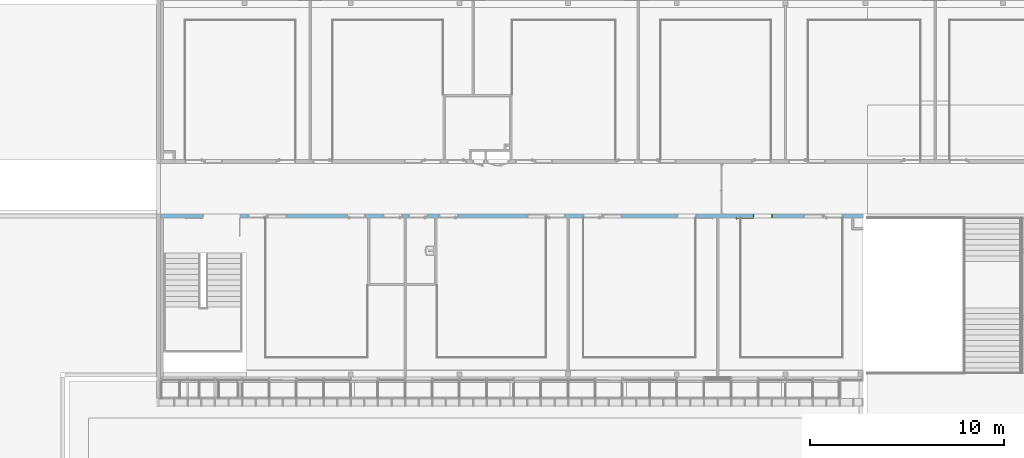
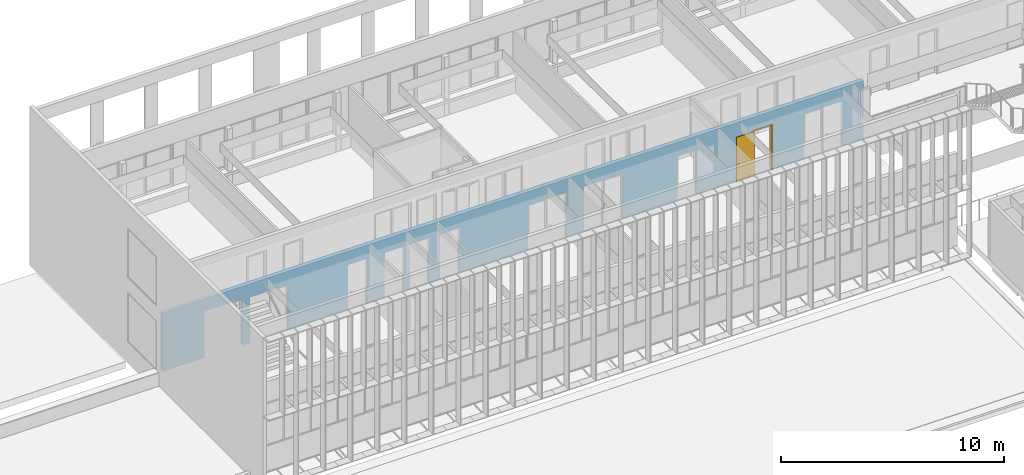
# One storey, part 94 of 106: 1 door, 15 openings, plus 1 element that does not belong to this part.
"""IFC2X3 building model written with IfcOpenShell, lengths in centimetres."""

from ifc_helpers import new_model, entity, si_unit, converted_unit, derived_unit, direction, frame, frame_2d, origin, place, context, subcontext, project, spatial, polyline, rectangle, extrude, clip, bounded_halfspace, faceted_brep, source, transform, mapped, material, material_list, layer, layer_set, layer_usage, type_object, type_shapes, element, fill, save


model = new_model("IFC2X3")

# Units and contexts
model_context = context("Model", 3, precision=0.001, world=origin(), true_north=direction((6.12303176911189e-17, 1.0)))
body_context = subcontext(model_context, "Body", "Model", "MODEL_VIEW")
ifc_project = project(units=[si_unit("LENGTHUNIT", "METRE", prefix="CENTI"), si_unit("AREAUNIT", "SQUARE_METRE"), si_unit("VOLUMEUNIT", "CUBIC_METRE"), converted_unit("PLANEANGLEUNIT", "DEGREE", entity("IfcRatioMeasure", 0.0174532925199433), si_unit("PLANEANGLEUNIT", "RADIAN"), dimensions=[0, 0, 0, 0, 0, 0, 0]), si_unit("MASSUNIT", "GRAM", prefix="KILO"), derived_unit("MASSDENSITYUNIT", [(si_unit("MASSUNIT", "GRAM", prefix="KILO"), 1), (si_unit("LENGTHUNIT", "METRE"), -3)]), si_unit("TIMEUNIT", "SECOND"), si_unit("FREQUENCYUNIT", "HERTZ"), si_unit("THERMODYNAMICTEMPERATUREUNIT", "DEGREE_CELSIUS"), derived_unit("THERMALTRANSMITTANCEUNIT", [(si_unit("MASSUNIT", "GRAM", prefix="KILO"), 1), (si_unit("THERMODYNAMICTEMPERATUREUNIT", "KELVIN"), -1), (si_unit("TIMEUNIT", "SECOND"), -3)]), derived_unit("VOLUMETRICFLOWRATEUNIT", [(si_unit("LENGTHUNIT", "METRE"), 3), (si_unit("TIMEUNIT", "SECOND"), -1)]), si_unit("ELECTRICCURRENTUNIT", "AMPERE"), si_unit("ELECTRICVOLTAGEUNIT", "VOLT"), si_unit("POWERUNIT", "WATT"), si_unit("FORCEUNIT", "NEWTON", prefix="KILO"), si_unit("ILLUMINANCEUNIT", "LUX"), si_unit("LUMINOUSFLUXUNIT", "LUMEN"), si_unit("LUMINOUSINTENSITYUNIT", "CANDELA"), derived_unit("USERDEFINED", [(si_unit("MASSUNIT", "GRAM", prefix="KILO"), -1), (si_unit("LENGTHUNIT", "METRE"), -2), (si_unit("TIMEUNIT", "SECOND"), 3), (si_unit("LUMINOUSFLUXUNIT", "LUMEN"), 1)]), derived_unit("LINEARVELOCITYUNIT", [(si_unit("LENGTHUNIT", "METRE"), 1), (si_unit("TIMEUNIT", "SECOND"), -1)]), si_unit("PRESSUREUNIT", "PASCAL"), derived_unit("USERDEFINED", [(si_unit("LENGTHUNIT", "METRE"), -2), (si_unit("MASSUNIT", "GRAM", prefix="KILO"), 1), (si_unit("TIMEUNIT", "SECOND"), -2)])], contexts=[model_context])

# Site, building, storey
site_placement = place(None, frame((-2781.94577612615, 7442.24238424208, 0.0)))
site = spatial("IfcSite", under=ifc_project, at=site_placement, Name="Default", CompositionType="ELEMENT")
building_placement = place(site_placement, origin())
building = spatial("IfcBuilding", under=site, at=building_placement, CompositionType="ELEMENT")
storey_placement = place(building_placement, frame((0.0, 0.0, 422.0)))
storey = spatial("IfcBuildingStorey", under=building, at=storey_placement, Name="Toiture - Cuisine", CompositionType="ELEMENT", Elevation=421.999999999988)

# Wall, openings, door
ifc_material_1 = material(Name="01 - Maçonnerie")
ifc_layer = layer(ifc_material_1, 20.0)
ifc_layer_set = layer_set([ifc_layer], Name="Mur de base:04 - Structure - béton - 20cm")
ifc_layer_usage = layer_usage(ifc_layer_set, "AXIS2", "NEGATIVE", 10.0)
wall_type = type_object("IfcWallType", Name="Mur de base:04 - Structure - béton - 20cm", PredefinedType="STANDARD", material=ifc_layer_set)
wall_placement = place(building_placement, frame((-4787.99987760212, -1100.0, 422.0), z_axis=(0.0, 0.0, 1.0), x_axis=(-1.0, 0.0, 0.0)))
wall = element("IfcWallStandardCase", 1, at=wall_placement, inside=storey, type_object=wall_type, material=ifc_layer_usage, Name="Mur de base:04 - Structure - béton - 20cm", ObjectType="Mur de base:04 - Structure - béton - 20cm", context=body_context, shape_type="Clipping", body=[
    clip(extrude(rectangle(XDim=3621.50000006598, YDim=20.0000000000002, at=frame_2d((1810.75000003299, 5.32907051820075e-14), x_axis=(-1.0, 0.0))), origin(), (0.0, 0.0, 1.0), 321.0), bounded_halfspace(frame((4.0, -10.0, 321.0), z_axis=(0.0, 0.0, -1.0), x_axis=(0.0, -1.0, 0.0)), True, frame((4.0, -10.0, 321.0)), polyline([(0.0, 0.0), (720.0, 0.0), (730.0, 0.0), (3617.50000006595, 0.0), (3617.50000006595, 20.0), (3602.20000006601, 20.0), (3077.50016406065, 20.0), (3075.50016406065, 20.0), (2550.5, 20.0), (2540.5, 20.0), (2362.50000003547, 20.0), (2352.50000003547, 20.0), (2203.5, 20.0), (2193.5, 20.0), (1632.5, 20.0), (1630.5, 20.0), (1522.50016406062, 20.0), (1512.50016406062, 20.0), (1440.5, 20.0), (1438.5, 20.0), (862.500000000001, 20.0), (860.5, 20.0), (750.500000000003, 20.0), (740.500000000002, 20.0), (630.500000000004, 20.0), (628.500000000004, 20.0), (104.500000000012, 20.0), (102.500000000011, 20.0), (56.0, 20.0), (46.0, 20.0), (0.0, 20.0), (0.0, 0.0)]))),
])
opening_1_placement = place(wall_placement, frame((3071.50016406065, -10.0, 0.0)))
element("IfcOpeningElement", 2, at=opening_1_placement, cuts=wall, Name="Int. Simple:PV (0.93m x 2.50m):1", ObjectType="Opening", context=body_context, shape_type="SweptSolid", body=[
    extrude(rectangle(XDim=248.500000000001, YDim=99.9999999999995, at=frame_2d((124.250000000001, 49.9999999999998), x_axis=(1.0, 0.0))), frame((0.0, 0.0, 0.0), z_axis=(0.0, 1.0, 0.0), x_axis=(0.0, 0.0, 1.0)), (0.0, 0.0, 1.0), 20.0),
])
opening_2_placement = place(wall_placement, frame((1534.5, -10.0, 0.0)))
element("IfcOpeningElement", 3, at=opening_2_placement, cuts=wall, Name="Int. Simple:PV (0.93m x 2.50m):1", ObjectType="Opening", context=body_context, shape_type="SweptSolid", body=[
    extrude(rectangle(XDim=248.500000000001, YDim=99.9999999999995, at=frame_2d((124.250000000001, 50.0), x_axis=(1.0, 0.0))), frame((0.0, 0.0, 0.0), z_axis=(0.0, 1.0, 0.0), x_axis=(0.0, 0.0, 1.0)), (0.0, 0.0, 1.0), 20.0),
])
opening_3_placement = place(wall_placement, frame((861.500000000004, -10.0, 0.0)))
element("IfcOpeningElement", 4, at=opening_3_placement, cuts=wall, Name="Int. Simple:PV (0.93m x 2.50m):1", ObjectType="Opening", context=body_context, shape_type="SweptSolid", body=[
    extrude(rectangle(XDim=248.500000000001, YDim=99.9999999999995, at=frame_2d((124.250000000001, 50.0), x_axis=(1.0, 0.0))), frame((0.0, 0.0, 0.0), z_axis=(0.0, 1.0, 0.0), x_axis=(0.0, 0.0, 1.0)), (0.0, 0.0, 1.0), 20.0),
])
opening_4_placement = place(wall_placement, frame((469.500000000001, -10.0, 0.0)))
opening_4 = element("IfcOpeningElement", 5, at=opening_4_placement, cuts=wall, Name="Int. Simple:PV (0.93m x 2.50m):1", ObjectType="Opening", context=body_context, shape_type="SweptSolid", body=[
    extrude(rectangle(XDim=248.500000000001, YDim=99.9999999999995, at=frame_2d((124.250000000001, 49.9999999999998), x_axis=(1.0, 0.0))), frame((0.0, 0.0, 0.0), z_axis=(0.0, 1.0, 0.0), x_axis=(0.0, 0.0, 1.0)), (0.0, 0.0, 1.0), 20.0),
])
opening_5_placement = place(wall_placement, frame((2971.50016406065, -10.0, 0.0)))
element("IfcOpeningElement", 6, at=opening_5_placement, cuts=wall, Name="châssis intérieur vitré:châssis intérieur vitré (h=270) R+1:1", ObjectType="Opening", context=body_context, shape_type="SweptSolid", body=[
    extrude(rectangle(XDim=250.0, YDim=99.9999999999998, at=frame_2d((125.0, 49.9999999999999), x_axis=(1.0, 0.0))), frame((0.0, 0.0, 0.0), z_axis=(0.0, 1.0, 0.0), x_axis=(0.0, 0.0, 1.0)), (0.0, 0.0, 1.0), 20.0),
])
opening_6_placement = place(wall_placement, frame((1634.50000000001, -10.0, 0.0)))
element("IfcOpeningElement", 7, at=opening_6_placement, cuts=wall, Name="châssis intérieur vitré:châssis intérieur vitré (h=270) R+1:1", ObjectType="Opening", context=body_context, shape_type="SweptSolid", body=[
    extrude(rectangle(XDim=250.0, YDim=99.9999999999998, at=frame_2d((125.0, 49.9999999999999), x_axis=(1.0, 0.0))), frame((0.0, 0.0, 0.0), z_axis=(0.0, 1.0, 0.0), x_axis=(0.0, 0.0, 1.0)), (0.0, 0.0, 1.0), 20.0),
])
opening_7_placement = place(wall_placement, frame((1243.0, -10.0, 0.0)))
element("IfcOpeningElement", 8, at=opening_7_placement, cuts=wall, Name="châssis intérieur vitré:châssis intérieur vitré (h=270) R+1:1", ObjectType="Opening", context=body_context, shape_type="SweptSolid", body=[
    extrude(rectangle(XDim=250.0, YDim=99.9999999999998, at=frame_2d((125.0, 49.9999999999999), x_axis=(1.0, 0.0))), frame((0.0, 0.0, 0.0), z_axis=(0.0, 1.0, 0.0), x_axis=(0.0, 0.0, 1.0)), (0.0, 0.0, 1.0), 20.0),
])
opening_8_placement = place(wall_placement, frame((208.0, -10.0, 0.0)))
element("IfcOpeningElement", 9, at=opening_8_placement, cuts=wall, Name="châssis intérieur vitré:châssis intérieur vitré (h=270) R+1:1", ObjectType="Opening", context=body_context, shape_type="SweptSolid", body=[
    extrude(rectangle(XDim=250.0, YDim=99.9999999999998, at=frame_2d((125.0, 49.9999999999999), x_axis=(1.0, 0.0))), frame((0.0, 0.0, 0.0), z_axis=(0.0, 1.0, 0.0), x_axis=(0.0, 0.0, 1.0)), (0.0, 0.0, 1.0), 20.0),
])
opening_9_placement = place(wall_placement, frame((2564.5, -10.0, 0.0)))
element("IfcOpeningElement", 10, at=opening_9_placement, cuts=wall, Name="Int. Simple:PV (0.93m x 2.50m):1", ObjectType="Opening", context=body_context, shape_type="SweptSolid", body=[
    extrude(rectangle(XDim=248.500000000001, YDim=99.9999999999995, at=frame_2d((124.250000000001, 50.0), x_axis=(1.0, 0.0))), frame((0.0, 0.0, 0.0), z_axis=(0.0, 1.0, 0.0), x_axis=(0.0, 0.0, 1.0)), (0.0, 0.0, 1.0), 20.0),
])
opening_10_placement = place(wall_placement, frame((2374.5, -10.0, 0.0)))
element("IfcOpeningElement", 11, at=opening_10_placement, cuts=wall, Name="Int. Simple:PP simple (0.93m x 2.50m):1", ObjectType="Opening", context=body_context, shape_type="SweptSolid", body=[
    extrude(rectangle(XDim=248.500000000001, YDim=99.9999999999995, at=frame_2d((124.250000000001, 49.9999999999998), x_axis=(1.0, 0.0))), frame((0.0, 0.0, 0.0), z_axis=(0.0, 1.0, 0.0), x_axis=(0.0, 0.0, 1.0)), (0.0, 0.0, 1.0), 20.0),
])
opening_11_placement = place(wall_placement, frame((2244.5, -10.0, 0.0)))
element("IfcOpeningElement", 12, at=opening_11_placement, cuts=wall, Name="Int. Simple:PP simple (0.93m x 2.50m):1", ObjectType="Opening", context=body_context, shape_type="SweptSolid", body=[
    extrude(rectangle(XDim=248.500000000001, YDim=99.9999999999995, at=frame_2d((124.250000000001, 49.9999999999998), x_axis=(1.0, 0.0))), frame((0.0, 0.0, 0.0), z_axis=(0.0, 1.0, 0.0), x_axis=(0.0, 0.0, 1.0)), (0.0, 0.0, 1.0), 20.0),
])
opening_12_placement = place(wall_placement, frame((2087.5, -10.0, 0.0)))
element("IfcOpeningElement", 13, at=opening_12_placement, cuts=wall, Name="Int. Simple:PV (0.93m x 2.50m):1", ObjectType="Opening", context=body_context, shape_type="SweptSolid", body=[
    extrude(rectangle(XDim=248.500000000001, YDim=99.9999999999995, at=frame_2d((124.250000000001, 49.9999999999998), x_axis=(1.0, 0.0))), frame((0.0, 0.0, 0.0), z_axis=(0.0, 1.0, 0.0), x_axis=(0.0, 0.0, 1.0)), (0.0, 0.0, 1.0), 20.0),
])
opening_13_placement = place(wall_placement, frame((1344.5, -10.0, 0.0)))
element("IfcOpeningElement", 14, at=opening_13_placement, cuts=wall, Name="Int. Simple:PV (0.93m x 2.50m):1", ObjectType="Opening", context=body_context, shape_type="SweptSolid", body=[
    extrude(rectangle(XDim=248.500000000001, YDim=99.9999999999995, at=frame_2d((124.250000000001, 49.9999999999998), x_axis=(1.0, 0.0))), frame((0.0, 0.0, 0.0), z_axis=(0.0, 1.0, 0.0), x_axis=(0.0, 0.0, 1.0)), (0.0, 0.0, 1.0), 20.0),
])
opening_14_placement = place(wall_placement, frame((106.500000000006, -10.0, 0.0)))
element("IfcOpeningElement", 15, at=opening_14_placement, cuts=wall, Name="Int. Simple:PV (0.93m x 2.50m):1", ObjectType="Opening", context=body_context, shape_type="SweptSolid", body=[
    extrude(rectangle(XDim=248.500000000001, YDim=99.9999999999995, at=frame_2d((124.250000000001, 50.0), x_axis=(1.0, 0.0))), frame((0.0, 0.0, 0.0), z_axis=(0.0, 1.0, 0.0), x_axis=(0.0, 0.0, 1.0)), (0.0, 0.0, 1.0), 20.0),
])
opening_15_placement = place(wall_placement, frame((3208.50000000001, -10.0, 0.0)))
element("IfcOpeningElement", 16, at=opening_15_placement, cuts=wall, Name="Int. Double:PP (1.90m x 2.50m):1", ObjectType="Opening", context=body_context, shape_type="SweptSolid", body=[
    extrude(rectangle(XDim=253.500000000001, YDim=197.0, at=frame_2d((126.750000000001, 98.5), x_axis=(1.0, 0.0))), frame((0.0, 0.0, 0.0), z_axis=(0.0, 1.0, 0.0), x_axis=(0.0, 0.0, 1.0)), (0.0, 0.0, 1.0), 20.0),
])
ifc_material_2 = material(Name="Finition Peinture - Blanc satiné")
ifc_material_3 = material(Name="Bois - Panneau de porte")
ifc_material_4 = material(Name="Bois - Cadre de porte")
ifc_material_list_1 = material_list([ifc_material_2, ifc_material_3, ifc_material_4])
ifc_material_list_2 = material_list([ifc_material_2, ifc_material_3, ifc_material_4])
door_style = type_object("IfcDoorStyle", Name="PV (0.93m x 2.50m)", ConstructionType="NOTDEFINED", OperationType="SINGLE_SWING_RIGHT", ParameterTakesPrecedence=False, Sizeable=False, material=ifc_material_list_2)
shared_shape = source(origin(), body_context, "Body", "Brep", [
    faceted_brep([(-78.4999999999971, 0.499999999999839, 87.0), (-78.4999999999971, 0.499999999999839, 108.0), (-77.5352761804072, 0.499999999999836, 108.399601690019), (-76.4999999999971, 0.49999999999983, 108.535898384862), (-75.4647238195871, 0.499999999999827, 108.399601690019), (-74.4999999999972, 0.499999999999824, 108.0), (-74.499999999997, 0.499999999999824, 87.0), (-75.4647238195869, 0.499999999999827, 86.6003983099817), (-76.499999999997, 0.49999999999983, 86.464101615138), (-77.5352761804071, 0.499999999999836, 86.6003983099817), (-78.4999999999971, 0.0, 108.0), (-78.499999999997, 0.0, 87.0), (-77.5352761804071, 0.0, 86.6003983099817), (-76.499999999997, 0.0, 86.464101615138), (-75.464723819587, 0.0, 86.6003983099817), (-74.4999999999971, 0.0, 87.0), (-74.4999999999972, 0.0, 108.0), (-75.4647238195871, 0.0, 108.399601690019), (-76.4999999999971, 0.0, 108.535898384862), (-77.5352761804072, 0.0, 108.399601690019)], [[[0, 1, 2, 3, 4, 5, 6, 7, 8, 9]], [[10, 11, 12, 13, 14, 15, 16, 17, 18, 19]], [[9, 12, 11, 0]], [[8, 13, 12, 9]], [[7, 14, 13, 8]], [[7, 6, 15, 14]], [[15, 6, 5, 16]], [[4, 17, 16, 5]], [[3, 18, 17, 4]], [[2, 19, 18, 3]], [[2, 1, 10, 19]], [[11, 10, 1, 0]]]),
    faceted_brep([(-78.4999999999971, -4.0, 87.0), (-78.4999999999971, -4.0, 108.0), (-77.5352761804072, -4.0, 108.399601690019), (-76.4999999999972, -4.0, 108.535898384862), (-75.4647238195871, -4.0, 108.399601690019), (-74.4999999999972, -4.0, 108.0), (-74.4999999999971, -4.0, 87.0), (-75.464723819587, -4.0, 86.6003983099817), (-76.499999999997, -4.0, 86.464101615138), (-77.5352761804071, -4.0, 86.6003983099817), (-76.4999999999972, -4.50000000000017, 108.535898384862), (-77.5352761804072, -4.50000000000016, 108.399601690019), (-78.4999999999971, -4.50000000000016, 108.0), (-78.499999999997, -4.50000000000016, 87.0), (-77.5352761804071, -4.50000000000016, 86.6003983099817), (-76.499999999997, -4.50000000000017, 86.464101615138), (-75.464723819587, -4.50000000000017, 86.6003983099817), (-74.4999999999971, -4.50000000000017, 87.0), (-74.4999999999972, -4.50000000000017, 108.0), (-75.4647238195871, -4.50000000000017, 108.399601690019)], [[[0, 1, 2, 3, 4, 5, 6, 7, 8, 9]], [[10, 11, 12, 13, 14, 15, 16, 17, 18, 19]], [[4, 19, 18, 5]], [[3, 10, 19, 4]], [[2, 11, 10, 3]], [[2, 1, 12, 11]], [[13, 12, 1, 0]], [[9, 14, 13, 0]], [[8, 15, 14, 9]], [[7, 16, 15, 8]], [[7, 6, 17, 16]], [[17, 6, 5, 18]]]),
    faceted_brep([(-76.2974701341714, 0.499999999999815, 100.778044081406), (-76.7025298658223, 0.499999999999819, 100.778044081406), (-77.0999999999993, 0.499999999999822, 100.699999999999), (-77.1000000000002, 0.499999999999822, 99.2999999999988), (-76.7025298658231, 0.499999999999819, 99.221955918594), (-76.2974701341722, 0.499999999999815, 99.2219559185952), (-75.8999999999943, 0.499999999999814, 99.3000000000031), (-75.8999999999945, 0.499999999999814, 100.7), (-76.7025298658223, 3.10045754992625, 100.778044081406), (-77.0999999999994, 3.26509507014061, 100.7), (-76.2974701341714, 2.93267631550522, 100.778044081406), (-74.929860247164, 4.30028620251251, 100.778044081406), (-75.097641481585, 4.70534593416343, 100.778044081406), (-75.8999999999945, 2.76803879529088, 100.7), (-75.8999999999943, 2.76803879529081, 99.3000000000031), (-76.2974701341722, 2.93267631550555, 99.2219559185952), (-76.7025298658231, 3.10045754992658, 99.221955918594), (-75.0976414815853, 4.70534593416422, 99.221955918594), (-74.9298602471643, 4.3002862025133, 99.2219559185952), (-77.1000000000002, 3.26509507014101, 99.2999999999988), (-75.2622790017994, 5.10281606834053, 100.7), (-74.7652227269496, 3.9028160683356, 100.7), (-74.7652227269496, 3.90281606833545, 99.3000000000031), (-75.2622790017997, 5.10281606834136, 99.2999999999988), (-66.4981359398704, 5.10281606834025, 100.7), (-66.4981359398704, 4.70534593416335, 100.778044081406), (-66.4981359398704, 4.30028620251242, 100.778044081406), (-66.4981359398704, 3.90281606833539, 100.699999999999), (-66.4981359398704, 3.90281606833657, 99.3000000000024), (-66.4981359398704, 4.30028620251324, 99.2219559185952), (-66.4981359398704, 4.70534593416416, 99.221955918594), (-66.4981359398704, 5.10281606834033, 99.2999999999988), (-70.7139980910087, 4.50281606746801, 100.78786867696), (-71.2692302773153, 5.10281606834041, 100.7), (-70.63167933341, 3.90281606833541, 100.7), (-70.6316793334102, 3.9028160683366, 99.3000000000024), (-70.7139981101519, 4.50281607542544, 99.2121313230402), (-71.2692310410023, 5.10281606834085, 99.2999999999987)], [[[0, 1, 2, 3, 4, 5, 6, 7]], [[2, 1, 8, 9]], [[1, 0, 10, 11, 12, 8]], [[0, 7, 13, 10]], [[14, 13, 7, 6]], [[5, 15, 14, 6]], [[5, 4, 16, 17, 18, 15]], [[3, 19, 16, 4]], [[9, 19, 3, 2]], [[9, 8, 12, 20]], [[10, 13, 21, 11]], [[22, 21, 13, 14]], [[14, 15, 18, 22]], [[16, 19, 23, 17]], [[20, 23, 19, 9]], [[24, 25, 26, 27, 28, 29, 30, 31]], [[32, 25, 33]], [[33, 25, 24]], [[33, 20, 12]], [[11, 34, 32]], [[34, 11, 21]], [[27, 26, 34]], [[32, 26, 25]], [[32, 34, 26]], [[32, 33, 12]], [[11, 32, 12]], [[21, 22, 35, 28, 27, 34]], [[36, 29, 35]], [[30, 36, 37]], [[18, 35, 22]], [[29, 28, 35]], [[30, 37, 31]], [[37, 17, 23]], [[36, 17, 37]], [[36, 18, 17]], [[36, 35, 18]], [[29, 36, 30]], [[23, 20, 33, 24, 31, 37]]]),
    faceted_brep([(-76.2974701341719, -4.50000000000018, 99.2219559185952), (-76.7025298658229, -4.50000000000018, 99.221955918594), (-77.099999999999, -4.50000000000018, 99.2999999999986), (-77.0999999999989, -4.50000000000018, 100.7), (-76.702529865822, -4.50000000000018, 100.778044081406), (-76.2974701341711, -4.50000000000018, 100.778044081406), (-75.8999999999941, -4.50000000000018, 100.7), (-75.8999999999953, -4.50000000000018, 99.3000000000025), (-75.8999999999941, -6.74852045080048, 100.7), (-75.8999999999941, -6.74852045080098, 99.3000000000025), (-76.2974701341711, -6.91315797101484, 100.778044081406), (-76.702529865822, -7.08093920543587, 100.778044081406), (-75.0838906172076, -8.69957845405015, 100.778044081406), (-74.9161093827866, -8.29451872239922, 100.778044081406), (-77.0999999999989, -7.2455767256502, 100.7), (-77.099999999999, -7.24557672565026, 99.2999999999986), (-76.7025298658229, -7.08093920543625, 99.221955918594), (-76.297470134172, -6.91315797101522, 99.2219559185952), (-74.916109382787, -8.29451872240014, 99.2219559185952), (-75.083890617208, -8.69957845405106, 99.221955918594), (-74.7514718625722, -7.89704858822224, 100.7), (-74.7514718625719, -7.8970485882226, 99.3000000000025), (-75.2485281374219, -9.09704858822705, 100.7), (-75.248528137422, -9.09704858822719, 99.2999999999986), (-66.4954216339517, -8.29451872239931, 100.778044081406), (-66.4954216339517, -8.69957845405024, 100.778044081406), (-66.4954216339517, -9.09704858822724, 100.7), (-66.4954216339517, -9.09704858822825, 99.2999999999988), (-66.4954216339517, -8.69957845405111, 99.221955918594), (-66.4954216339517, -8.29451872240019, 99.2219559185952), (-66.4954216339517, -7.8970485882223, 99.3000000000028), (-66.4954216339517, -7.89704858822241, 100.7), (-70.623446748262, -7.89704858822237, 100.7), (-70.6234479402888, -7.89704858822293, 99.3000000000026), (-70.7057655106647, -8.49704858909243, 100.78786867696), (-71.2554794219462, -9.09704858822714, 100.7), (-71.2554795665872, -9.09704858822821, 99.2999999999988), (-70.7057654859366, -8.49704858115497, 99.2121313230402)], [[[0, 1, 2, 3, 4, 5, 6, 7]], [[8, 9, 7, 6]], [[5, 10, 8, 6]], [[5, 4, 11, 12, 13, 10]], [[3, 14, 11, 4]], [[14, 3, 2, 15]], [[2, 1, 16, 15]], [[1, 0, 17, 18, 19, 16]], [[0, 7, 9, 17]], [[20, 21, 9, 8]], [[8, 10, 13, 20]], [[14, 22, 12, 11]], [[23, 22, 14, 15]], [[15, 16, 19, 23]], [[17, 9, 21, 18]], [[24, 25, 26, 27, 28, 29, 30, 31]], [[21, 20, 32, 31, 30, 33]], [[34, 24, 32]], [[25, 34, 35]], [[13, 32, 20]], [[24, 31, 32]], [[25, 35, 26]], [[35, 12, 22]], [[34, 12, 35]], [[34, 13, 12]], [[34, 32, 13]], [[24, 34, 25]], [[22, 23, 36, 27, 26, 35]], [[37, 28, 36]], [[36, 28, 27]], [[36, 23, 19]], [[18, 33, 37]], [[33, 18, 21]], [[30, 29, 33]], [[37, 29, 28]], [[37, 33, 29]], [[37, 36, 19]], [[18, 37, 19]]]),
    faceted_brep([(-82.4999999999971, -4.0, 245.0), (-82.4999999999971, -4.0, 0.0), (10.5000000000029, -4.0, 0.0), (10.5000000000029, -4.0, 245.0), (-82.4999999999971, 0.0, 245.0), (10.5000000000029, 0.0, 245.0), (10.5000000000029, 0.0, 0.0), (-82.4999999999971, 0.0, 0.0)], [[[0, 1, 2, 3]], [[4, 5, 6, 7]], [[3, 5, 4, 0]], [[2, 6, 5, 3]], [[1, 7, 6, 2]], [[0, 4, 7, 1]]]),
    faceted_brep([(107.0, 20.0, 0.0), (107.0, 0.0, 0.0), (108.500000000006, 0.0, 0.0), (108.500000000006, -0.500000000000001, 0.0), (103.500000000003, -0.500000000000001, 0.0), (103.500000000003, 4.0, 0.0), (102.0, 4.0, 0.0), (102.0, 20.5000000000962, 0.0), (108.500000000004, 20.5000000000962, 0.0), (108.500000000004, 20.0, 0.0), (108.500000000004, 20.0, 250.0), (5.50000000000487, 20.0, 250.0), (5.50000000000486, 20.0, 0.0), (7.0, 20.0, 0.0), (7.0, 20.0, 248.500000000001), (107.0, 20.0, 248.500000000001), (108.500000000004, 20.5000000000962, 250.0), (102.0, 20.5000000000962, 243.5), (12.0, 20.5000000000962, 243.5), (12.0, 20.5000000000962, 0.0), (5.50000000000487, 20.5000000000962, 0.0), (5.50000000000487, 20.5000000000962, 250.0), (102.0, 4.0, 243.5), (103.500000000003, 4.0, 245.0), (10.5000000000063, 4.0, 245.0), (10.5000000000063, 4.0, 0.0), (12.0, 4.0, 0.0), (12.0, 4.0, 243.5), (103.500000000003, -0.500000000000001, 245.0), (108.500000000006, -0.500000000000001, 250.0), (5.5000000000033, -0.500000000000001, 250.0), (5.50000000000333, -0.500000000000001, 0.0), (10.5000000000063, -0.500000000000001, 0.0), (10.5000000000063, -0.500000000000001, 245.0), (108.500000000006, 0.0, 250.0), (107.0, 0.0, 248.500000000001), (7.0, 0.0, 248.500000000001), (7.0, 0.0, 0.0), (5.5000000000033, 0.0, 0.0), (5.50000000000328, 0.0, 250.0)], [[[0, 1, 2, 3, 4, 5, 6, 7, 8, 9]], [[9, 10, 11, 12, 13, 14, 15, 0]], [[8, 16, 10, 9]], [[7, 17, 18, 19, 20, 21, 16, 8]], [[7, 6, 22, 17]], [[5, 23, 24, 25, 26, 27, 22, 6]], [[5, 4, 28, 23]], [[3, 29, 30, 31, 32, 33, 28, 4]], [[2, 34, 29, 3]], [[1, 35, 36, 37, 38, 39, 34, 2]], [[0, 15, 35, 1]], [[14, 13, 37, 36]], [[13, 12, 20, 19, 26, 25, 32, 31, 38, 37]], [[21, 20, 12, 11]], [[27, 26, 19, 18]], [[33, 32, 25, 24]], [[39, 38, 31, 30]], [[16, 21, 11, 10]], [[22, 27, 18, 17]], [[28, 33, 24, 23]], [[34, 39, 30, 29]], [[15, 14, 36, 35]]]),
])
type_shapes(door_style, [shared_shape])
door_placement = place(opening_4_placement, frame((107.0, 20.0, 0.0), z_axis=(0.0, 0.0, 1.0), x_axis=(-1.0, 0.0, 0.0)))
door = element("IfcDoor", 17, at=door_placement, inside=storey, type_object=door_style, material=ifc_material_list_1, Name="Int. Simple:PV (0.93m x 2.50m)", ObjectType="Int. Simple:PV (0.93m x 2.50m)", OverallHeight=248.500000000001, OverallWidth=99.9999999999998, context=body_context, shape_type="MappedRepresentation", body=[
    mapped(shared_shape, transform((0.0, 0.0, 0.0), scale=1.0)),
])
fill(opening_4, door)

save(model, "model.ifc")
